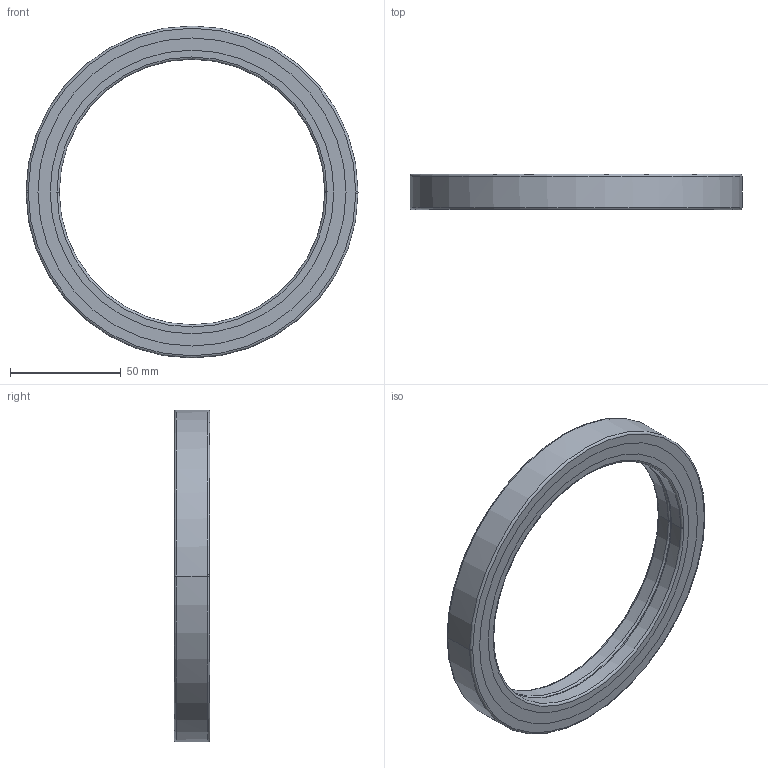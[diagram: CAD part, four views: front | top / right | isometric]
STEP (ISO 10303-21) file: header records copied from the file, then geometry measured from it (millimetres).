
FILE_DESCRIPTION(('no description'),'unknown implementation level');
FILE_NAME('CRBB12016_65.stp',' ',('HIWIN GmbH'),('CADClick - KiM GmbH - www.kimweb.de'),'unknown preprocess','ACIS','unknown authorization');
FILE_SCHEMA(('automotive_design'));
Length unit declared in the file: millimetre
Products named in the file (5): CRBB12016_1; CRBB12016_2; CRBB12016_3; CRBB12016_4; CRBB12016
Bounding box: 150 x 16 x 150 mm (x, y, z)
Volume: 72384 mm3; surface area: 49442.8 mm2
Topology: 5 solids, 5 shells, 54 faces, 120 edges, 76 vertices
Faces by surface type: torus 24, cylinder 20, plane 10
Entity records: 3096 total; most frequent: DIRECTION 338, STYLED_ITEM 255, PRESENTATION_STYLE_ASSIGNMENT 255, CARTESIAN_POINT 255, COLOUR_RGB 255, ORIENTED_EDGE 240, AXIS2_PLACEMENT_3D 159, EDGE_CURVE 120
